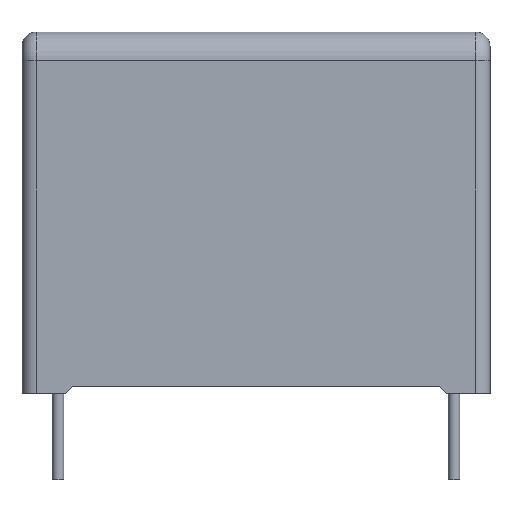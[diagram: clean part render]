
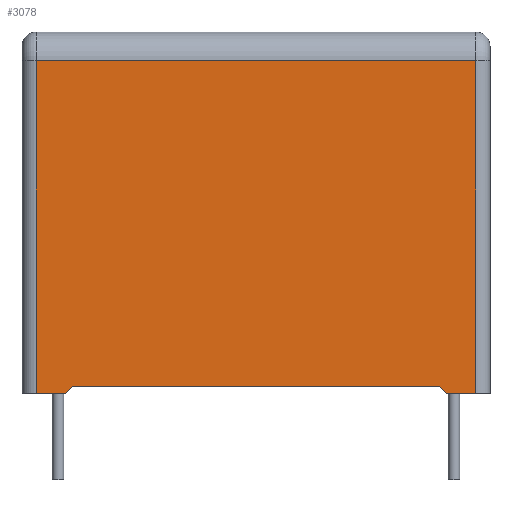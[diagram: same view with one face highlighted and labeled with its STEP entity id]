
A CAD part, top view. The second image highlights one B-rep face of the part: STEP entity #3078.
In plain terms, the highlighted planar face has unit normal (0, 0, 1).
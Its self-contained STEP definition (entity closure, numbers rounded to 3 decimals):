
#83 = CARTESIAN_POINT ( 'NONE',  ( -15.25, 23.1, 7.75 ) ) ;
#139 = DIRECTION ( 'NONE',  ( -1., 0., 0. ) ) ;
#155 = AXIS2_PLACEMENT_3D ( 'NONE', #4055, #1960, #139 ) ;
#277 = DIRECTION ( 'NONE',  ( -0.707, -0.707, 0. ) ) ;
#311 = CARTESIAN_POINT ( 'NONE',  ( -13.25, 0., 7.75 ) ) ;
#403 = CARTESIAN_POINT ( 'NONE',  ( 13.25, 0., 7.75 ) ) ;
#488 = DIRECTION ( 'NONE',  ( 0., -1., 0. ) ) ;
#588 = CARTESIAN_POINT ( 'NONE',  ( -15.25, 25.1, 7.75 ) ) ;
#684 = DIRECTION ( 'NONE',  ( -0.707, 0.707, 0. ) ) ;
#841 = CARTESIAN_POINT ( 'NONE',  ( -12.75, 0.5, 7.75 ) ) ;
#974 = VERTEX_POINT ( 'NONE', #1672 ) ;
#977 = EDGE_LOOP ( 'NONE', ( #2593, #2617, #2638, #2647, #2673, #2676, #2693, #2696 ) ) ;
#1243 = DIRECTION ( 'NONE',  ( -1., 0., 0. ) ) ;
#1411 = VERTEX_POINT ( 'NONE', #403 ) ;
#1557 = CARTESIAN_POINT ( 'NONE',  ( 15.25, 0., 7.75 ) ) ;
#1672 = CARTESIAN_POINT ( 'NONE',  ( 15.25, 23.1, 7.75 ) ) ;
#1683 = EDGE_CURVE ( 'NONE', #3986, #1797, #4097, .T. ) ;
#1704 = CARTESIAN_POINT ( 'NONE',  ( -12.75, 0.5, 7.75 ) ) ;
#1717 = VERTEX_POINT ( 'NONE', #83 ) ;
#1762 = CARTESIAN_POINT ( 'NONE',  ( -15.25, 0., 7.75 ) ) ;
#1797 = VERTEX_POINT ( 'NONE', #3235 ) ;
#1869 = EDGE_CURVE ( 'NONE', #2788, #1797, #3928, .T. ) ;
#1883 = VERTEX_POINT ( 'NONE', #2777 ) ;
#1960 = DIRECTION ( 'NONE',  ( 0., 0., -1. ) ) ;
#2095 = EDGE_CURVE ( 'NONE', #1717, #2788, #3723, .T. ) ;
#2314 = EDGE_CURVE ( 'NONE', #974, #1717, #3560, .T. ) ;
#2593 = ORIENTED_EDGE ( 'NONE', *, *, #3246, .F. ) ;
#2617 = ORIENTED_EDGE ( 'NONE', *, *, #3025, .F. ) ;
#2638 = ORIENTED_EDGE ( 'NONE', *, *, #2700, .T. ) ;
#2647 = ORIENTED_EDGE ( 'NONE', *, *, #2782, .T. ) ;
#2673 = ORIENTED_EDGE ( 'NONE', *, *, #2314, .T. ) ;
#2676 = ORIENTED_EDGE ( 'NONE', *, *, #2095, .T. ) ;
#2693 = ORIENTED_EDGE ( 'NONE', *, *, #1869, .T. ) ;
#2696 = ORIENTED_EDGE ( 'NONE', *, *, #1683, .F. ) ;
#2698 = CARTESIAN_POINT ( 'NONE',  ( -16.25, 0., 7.75 ) ) ;
#2700 = EDGE_CURVE ( 'NONE', #1411, #3593, #3262, .T. ) ;
#2777 = CARTESIAN_POINT ( 'NONE',  ( 12.75, 0.5, 7.75 ) ) ;
#2782 = EDGE_CURVE ( 'NONE', #3593, #974, #3208, .T. ) ;
#2788 = VERTEX_POINT ( 'NONE', #1762 ) ;
#2789 = DIRECTION ( 'NONE',  ( 1., 0., 0. ) ) ;
#2852 = CARTESIAN_POINT ( 'NONE',  ( -16.25, 0., 7.75 ) ) ;
#2906 = VECTOR ( 'NONE', #3764, 1000. ) ;
#2924 = CARTESIAN_POINT ( 'NONE',  ( 12.75, 0.5, 7.75 ) ) ;
#2925 = LINE ( 'NONE', #1704, #2906 ) ;
#3012 = FACE_OUTER_BOUND ( 'NONE', #977, .T. ) ;
#3025 = EDGE_CURVE ( 'NONE', #1411, #1883, #3055, .T. ) ;
#3055 = LINE ( 'NONE', #2924, #3058 ) ;
#3058 = VECTOR ( 'NONE', #684, 1000. ) ;
#3078 = ADVANCED_FACE ( 'NONE', ( #3012 ), #3334, .F. ) ;
#3102 = DIRECTION ( 'NONE',  ( 0., 1., 0. ) ) ;
#3208 = LINE ( 'NONE', #4166, #3216 ) ;
#3216 = VECTOR ( 'NONE', #3102, 1000. ) ;
#3235 = CARTESIAN_POINT ( 'NONE',  ( -13.25, 0., 7.75 ) ) ;
#3246 = EDGE_CURVE ( 'NONE', #1883, #3986, #2925, .T. ) ;
#3262 = LINE ( 'NONE', #2698, #3281 ) ;
#3281 = VECTOR ( 'NONE', #4119, 1000. ) ;
#3334 = PLANE ( 'NONE',  #155 ) ;
#3497 = CARTESIAN_POINT ( 'NONE',  ( -16.25, 23.1, 7.75 ) ) ;
#3552 = VECTOR ( 'NONE', #1243, 1000. ) ;
#3560 = LINE ( 'NONE', #3497, #3552 ) ;
#3593 = VERTEX_POINT ( 'NONE', #1557 ) ;
#3719 = VECTOR ( 'NONE', #488, 1000. ) ;
#3723 = LINE ( 'NONE', #588, #3719 ) ;
#3764 = DIRECTION ( 'NONE',  ( -1., 0., 0. ) ) ;
#3921 = VECTOR ( 'NONE', #2789, 1000. ) ;
#3928 = LINE ( 'NONE', #2852, #3921 ) ;
#3986 = VERTEX_POINT ( 'NONE', #841 ) ;
#4055 = CARTESIAN_POINT ( 'NONE',  ( -16.25, 25.1, 7.75 ) ) ;
#4097 = LINE ( 'NONE', #311, #4100 ) ;
#4100 = VECTOR ( 'NONE', #277, 1000. ) ;
#4119 = DIRECTION ( 'NONE',  ( 1., 0., 0. ) ) ;
#4166 = CARTESIAN_POINT ( 'NONE',  ( 15.25, 25.1, 7.75 ) ) ;
